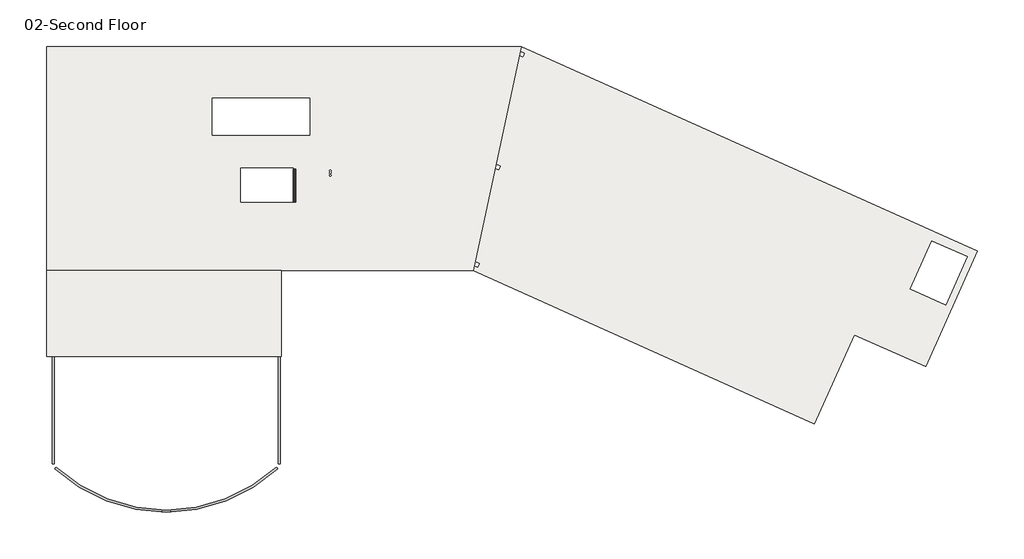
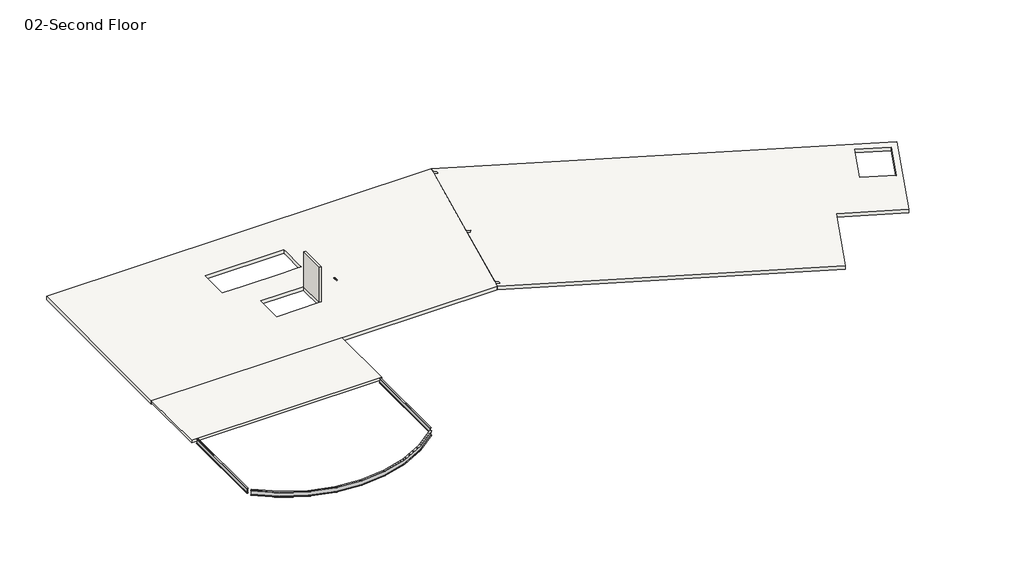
# One storey: 3 beams, 3 slabs, 1 wall.
"""IFC4 building model written with IfcOpenShell, lengths in millimetres."""

from ifc_helpers import new_model, si_unit, frame, origin, place, context, project, spatial, polyline, circle_curve, outline, extrude, faceted_brep, transform, mapped, element, save
from ifc_brep_helpers import plane_surface, revolved_surface, advanced_brep
from components import w_shapes_w16x26_e367a1e3, w_shapes_w16x26_bd6dae71, w_shapes_w16x26_8057c508

model = new_model("IFC4")

# Units and contexts
model_context = context("Model", 3, world=origin())
ifc_project = project(units=[si_unit("LENGTHUNIT", "METRE", prefix="MILLI")], contexts=[model_context])

# Site, building, storey
site = spatial("IfcSite", under=ifc_project)
building = spatial("IfcBuilding", under=site)
storey = spatial("IfcBuildingStorey", under=building, Name="02-Second Floor", Elevation=6705.6)

# Beams
placement = place(None, origin())
w_shapes_w16x26_shape = w_shapes_w16x26_e367a1e3(model_context)
element("IfcBeam", 1, ObjectType="W Shapes : W16X26", at=placement, inside=storey, context=model_context, shape_type="MappedRepresentation", body=[
    mapped(w_shapes_w16x26_shape, transform((14998.7, -23723.6, 6506.21), x_axis=(0.0, -1.0, 0.0), y_axis=(1.0, 0.0, 0.0), z_axis=(0.0, 0.0, 1.0))),
])
w_shapes_w16x26_2_shape = w_shapes_w16x26_bd6dae71(model_context)
element("IfcBeam", 2, ObjectType="W Shapes : W16X26", at=placement, inside=storey, context=model_context, shape_type="MappedRepresentation", body=[
    mapped(w_shapes_w16x26_2_shape, transform((0.0, -23723.6, 6506.21), x_axis=(0.0, 1.0, 0.0), y_axis=(-1.0, 0.0, 0.0), z_axis=(0.0, 0.0, 1.0))),
])
w_shapes_w16x26_3_shape = w_shapes_w16x26_8057c508(model_context)
element("IfcBeam", 3, ObjectType="W Shapes : W16X26", at=placement, inside=storey, context=model_context, shape_type="MappedRepresentation", body=[
    mapped(w_shapes_w16x26_3_shape, transform((14998.7, -27444.7, 6506.21), x_axis=(-0.7227923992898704, -0.691065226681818, 0.0), y_axis=(0.691065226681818, -0.7227923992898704, 0.0), z_axis=(0.0, 0.0, 1.0))),
])

# Slabs
element("IfcSlab", 4, ObjectType="RC Composite Slab 8\"", at=placement, inside=storey, context=model_context, shape_type="SweptSolid", body=[
    extrude(outline(polyline([(15151.1, -20154.9), (-457.2, -20154.9), (-457.2, -14452.6), (15151.1, -14452.6), (15151.1, -20154.9)])), frame((0.0, 0.0, 6502.4), z_axis=(0.0, 0.0, 1.0), x_axis=(1.0, 0.0, 0.0)), (0.0, 0.0, 1.0), 203.2),
])
element("IfcSlab", 5, ObjectType="RC Slab 12\"", at=placement, inside=storey, context=model_context, shape_type="AdvancedBrep", body=[
    advanced_brep(
    [(-457.2, 457.2, 6400.8), (31098.7387393, 457.2, 6400.8), (27903.7815965, -14452.6, 6400.8), (-457.2, -14452.6, 6400.8), (17030.7, -2984.5, 6400.8), (10553.7, -2984.5, 6400.8), (10553.7, -5422.9, 6400.8), (10858.5, -5422.9, 6400.8), (17030.7, -5422.9, 6400.8), (17030.7, -5118.1, 6400.8), (17030.7, -3289.3, 6400.8), (18347.8020543, -8109.4381113, 6400.8), (18449.4020543, -8109.4381113, 6400.8), (18347.8020543, -7957.0381113, 6400.8), (18449.4020543, -7957.0381113, 6400.8), (18347.8020543, -7804.6381113, 6400.8), (18449.4020543, -7804.6381113, 6400.8), (15951.2, -7633.3081651, 6400.8), (12446.0, -7633.3081651, 6400.8), (12446.0, -7683.5, 6400.8), (12446.0, -9893.3, 6400.8), (15951.2, -9893.3, 6400.8), (15951.2, -7683.5, 6400.8), (31098.7387393, 457.2, 6705.6), (-457.2, 457.2, 6705.6), (-457.2, -14452.6, 6705.6), (15151.1, -14452.6, 6705.6), (27903.7815965, -14452.6, 6705.6), (10553.7, -2984.5, 6705.6), (17030.7, -2984.5, 6705.6), (17030.7, -3289.3, 6705.6), (17030.7, -5118.1, 6705.6), (17030.7, -5422.9, 6705.6), (16522.7, -5422.9, 6705.6), (15608.3, -5422.9, 6705.6), (14389.1, -5422.9, 6705.6), (13474.7, -5422.9, 6705.6), (12242.8, -5422.9, 6705.6), (11328.4, -5422.9, 6705.6), (10553.7, -5422.9, 6705.6), (18449.4020543, -8109.4381113, 6705.6), (18347.8020543, -8109.4381113, 6705.6), (18449.4020543, -7957.0381113, 6705.6), (18347.8020543, -7957.0381113, 6705.6), (18449.4020543, -7804.6381113, 6705.6), (18347.8020543, -7804.6381113, 6705.6), (12446.0, -7633.3081651, 6705.6), (15951.2, -7633.3081651, 6705.6), (15951.2, -7683.5, 6705.6), (15951.2, -9893.3, 6705.6), (12446.0, -9893.3, 6705.6), (12446.0, -7683.5, 6705.6), (-457.2, -14452.6, 6502.4)],
    [
        (0, 1),
        (1, 2),
        (2, 3),
        (3, 0),
        (4, 5),
        (5, 6),
        (6, 7),
        (7, 8),
        (8, 9),
        (9, 10),
        (10, 4),
        (11, 12, circle_curve(frame((18398.6020543, -8109.4381113, 6400.8), z_axis=(0.0, 0.0, 1.0), x_axis=(1.0, 0.0, 0.0)), 50.8)),
        (12, 11, circle_curve(frame((18398.6020543, -8109.4381113, 6400.8), z_axis=(0.0, 0.0, 1.0), x_axis=(1.0, 0.0, 0.0)), 50.8)),
        (13, 14, circle_curve(frame((18398.6020543, -7957.0381113, 6400.8), z_axis=(0.0, 0.0, 1.0), x_axis=(1.0, 0.0, 0.0)), 50.8)),
        (14, 13, circle_curve(frame((18398.6020543, -7957.0381113, 6400.8), z_axis=(0.0, 0.0, 1.0), x_axis=(1.0, 0.0, 0.0)), 50.8)),
        (15, 16, circle_curve(frame((18398.6020543, -7804.6381113, 6400.8), z_axis=(0.0, 0.0, 1.0), x_axis=(1.0, 0.0, 0.0)), 50.8)),
        (16, 15, circle_curve(frame((18398.6020543, -7804.6381113, 6400.8), z_axis=(0.0, 0.0, 1.0), x_axis=(1.0, 0.0, 0.0)), 50.8)),
        (17, 18),
        (18, 19),
        (19, 20),
        (20, 21),
        (21, 22),
        (22, 17),
        (23, 24),
        (24, 25),
        (25, 26),
        (26, 27),
        (27, 23),
        (28, 29),
        (29, 30),
        (30, 31),
        (31, 32),
        (32, 33),
        (33, 34),
        (34, 35),
        (35, 36),
        (36, 37),
        (37, 38),
        (38, 39),
        (39, 28),
        (40, 41, circle_curve(frame((18398.6020543, -8109.4381113, 6705.6), z_axis=(0.0, 0.0, -1.0), x_axis=(1.0, 0.0, 0.0)), 50.8)),
        (41, 40, circle_curve(frame((18398.6020543, -8109.4381113, 6705.6), z_axis=(0.0, 0.0, -1.0), x_axis=(1.0, 0.0, 0.0)), 50.8)),
        (42, 43, circle_curve(frame((18398.6020543, -7957.0381113, 6705.6), z_axis=(0.0, 0.0, -1.0), x_axis=(1.0, 0.0, 0.0)), 50.8)),
        (43, 42, circle_curve(frame((18398.6020543, -7957.0381113, 6705.6), z_axis=(0.0, 0.0, -1.0), x_axis=(1.0, 0.0, 0.0)), 50.8)),
        (44, 45, circle_curve(frame((18398.6020543, -7804.6381113, 6705.6), z_axis=(0.0, 0.0, -1.0), x_axis=(1.0, 0.0, 0.0)), 50.8)),
        (45, 44, circle_curve(frame((18398.6020543, -7804.6381113, 6705.6), z_axis=(0.0, 0.0, -1.0), x_axis=(1.0, 0.0, 0.0)), 50.8)),
        (46, 47),
        (47, 48),
        (48, 49),
        (49, 50),
        (50, 51),
        (51, 46),
        (0, 24),
        (23, 1),
        (27, 2),
        (25, 52),
        (52, 3),
        (4, 29),
        (28, 5),
        (39, 6),
        (32, 8),
        (17, 47),
        (46, 18),
        (50, 20),
        (49, 21),
        (11, 41),
        (40, 12),
        (13, 43),
        (42, 14),
        (15, 45),
        (44, 16),
    ],
    [
        plane_surface(frame((0.0, 457.2, 6400.8), z_axis=(0.0, 0.0, -1.0), x_axis=(1.0, 0.0, 0.0))),
        plane_surface(frame((0.0, 457.2, 6705.6), z_axis=(0.0, 0.0, 1.0), x_axis=(-1.0, 0.0, 0.0))),
        plane_surface(frame((-457.2, 457.2, 6400.8), z_axis=(0.0, 1.0, 0.0), x_axis=(0.0, 0.0, 1.0))),
        plane_surface(frame((31098.7387393, 457.2, 6400.8), z_axis=(0.9778024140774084, -0.2095290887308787, 0.0), x_axis=(0.0, 0.0, 1.0))),
        plane_surface(frame((27903.7815965, -14452.6, 6400.8), z_axis=(0.0, -1.0, 0.0), x_axis=(0.0, 0.0, 1.0))),
        plane_surface(frame((-457.2, -14452.6, 6400.8), z_axis=(-1.0, 0.0, 0.0), x_axis=(0.0, 0.0, 1.0))),
        plane_surface(frame((17030.7, -2984.5, 10363.2), z_axis=(0.0, -1.0, 0.0), x_axis=(0.0, 0.0, -1.0))),
        plane_surface(frame((10553.7, -2984.5, 10363.2), z_axis=(1.0, 0.0, 0.0), x_axis=(0.0, 0.0, -1.0))),
        plane_surface(frame((10553.7, -5422.9, 10363.2), z_axis=(0.0, 1.0, 0.0), x_axis=(0.0, 0.0, -1.0))),
        plane_surface(frame((17030.7, -5422.9, 10363.2), z_axis=(-1.0, 0.0, 0.0), x_axis=(0.0, 0.0, -1.0))),
        plane_surface(frame((15951.2, -7633.3081651, 10363.2), z_axis=(0.0, -1.0, 0.0), x_axis=(0.0, 0.0, -1.0))),
        plane_surface(frame((12446.0, -7633.3081651, 10363.2), z_axis=(1.0, 0.0, 0.0), x_axis=(0.0, 0.0, -1.0))),
        plane_surface(frame((12446.0, -9893.3, 10363.2), z_axis=(0.0, 1.0, 0.0), x_axis=(0.0, 0.0, -1.0))),
        plane_surface(frame((15951.2, -9893.3, 10363.2), z_axis=(-1.0, 0.0, 0.0), x_axis=(0.0, 0.0, -1.0))),
        revolved_surface(polyline([(18449.4020543, -8109.4381113, 6705.6), (18449.4020543, -8109.4381113, 6400.8)]), (18398.6020543, -8109.4381113, 6096.0), (0.0, 0.0, 1.0)),
        revolved_surface(polyline([(18449.4020543, -7957.0381113, 6705.6), (18449.4020543, -7957.0381113, 6400.8)]), (18398.6020543, -7957.0381113, 6096.0), (0.0, 0.0, 1.0)),
        revolved_surface(polyline([(18449.4020543, -7804.6381113, 6705.6), (18449.4020543, -7804.6381113, 6400.8)]), (18398.6020543, -7804.6381113, 6096.0), (0.0, 0.0, 1.0)),
    ],
    [
        (0, [[1, 2, 3, 4], [5, 6, 7, 8, 9, 10, 11], [12, 13], [14, 15], [16, 17], [18, 19, 20, 21, 22, 23]]),
        (1, [[24, 25, 26, 27, 28], [29, 30, 31, 32, 33, 34, 35, 36, 37, 38, 39, 40], [41, 42], [43, 44], [45, 46], [47, 48, 49, 50, 51, 52]]),
        (2, [[-1, 53, -24, 54]]),
        (3, [[-2, -54, -28, 55]]),
        (4, [[-3, -55, -27, -26, 56, 57]]),
        (5, [[-4, -57, -56, -25, -53]]),
        (6, [[58, -29, 59, -5]]),
        (7, [[-59, -40, 60, -6]]),
        (8, [[-60, -39, -38, -37, -36, -35, -34, -33, 61, -8, -7]]),
        (9, [[-58, -11, -10, -9, -61, -32, -31, -30]]),
        (10, [[62, -47, 63, -18]]),
        (11, [[-63, -52, -51, 64, -20, -19]]),
        (12, [[-64, -50, 65, -21]]),
        (13, [[-62, -23, -22, -65, -49, -48]]),
        (14, [[66, -41, 67, -12]]),
        (14, [[-66, -13, -67, -42]]),
        (15, [[68, -43, 69, -14]]),
        (15, [[-68, -15, -69, -44]]),
        (16, [[70, -45, 71, -16]]),
        (16, [[-70, -17, -71, -46]]),
    ],
),
])
element("IfcSlab", 6, ObjectType="RC Slab 12\"", at=placement, inside=storey, context=model_context, shape_type="Brep", body=[
    faceted_brep([(61413.0546278, -13159.9258537, 6400.8), (57962.8673107, -20840.7, 6400.8), (53236.2370668, -18717.5078049, 6400.8), (50577.0429205, -24637.3804878, 6400.8), (27903.7815965, -14452.6, 6400.8), (27969.0988162, -14147.786308, 6400.8), (28217.3432689, -14259.3121951, 6400.8), (28342.2369275, -13981.275122, 6400.8), (28034.4045592, -13843.0124873, 6400.8), (29359.7488162, -7658.086308, 6400.8), (29607.9932689, -7769.6121951, 6400.8), (29732.8869275, -7491.575122, 6400.8), (29425.0545592, -7353.3124873, 6400.8), (30968.1131019, -152.386308, 6400.8), (31216.3575546, -263.9121951, 6400.8), (31341.2512132, 14.124878, 6400.8), (31033.4188449, 152.3875127, 6400.8), (31098.7387393, 457.2, 6400.8), (59309.9346278, -16726.0858537, 6400.8), (60746.211701, -13528.6595122, 6400.8), (58382.896579, -12467.0634146, 6400.8), (56946.6195059, -15664.4897561, 6400.8), (57962.8673107, -20840.7, 6705.6), (61413.0546278, -13159.9258537, 6705.6), (31098.7387393, 457.2, 6705.6), (31033.4244536, 152.4, 6705.6), (31341.2512132, 14.124878, 6705.6), (31216.3575546, -263.9121951, 6705.6), (30968.1131019, -152.386308, 6705.6), (29425.0601679, -7353.3, 6705.6), (29732.8869275, -7491.575122, 6705.6), (29607.9932689, -7769.6121951, 6705.6), (29359.7488162, -7658.086308, 6705.6), (28034.4101679, -13843.0, 6705.6), (28342.2369275, -13981.275122, 6705.6), (28217.3432689, -14259.3121951, 6705.6), (27969.0988162, -14147.786308, 6705.6), (27903.7815965, -14452.6, 6705.6), (50577.0429205, -24637.3804878, 6705.6), (53236.2370668, -18717.5078049, 6705.6), (60746.211701, -13528.6595122, 6705.6), (59309.9346278, -16726.0858537, 6705.6), (56946.6195059, -15664.4897561, 6705.6), (58382.896579, -12467.0634146, 6705.6)], [[[0, 1, 2, 3, 4, 5, 6, 7, 8, 9, 10, 11, 12, 13, 14, 15, 16, 17], [18, 19, 20, 21]], [[22, 23, 24, 25, 26, 27, 28, 29, 30, 31, 32, 33, 34, 35, 36, 37, 38, 39], [40, 41, 42, 43]], [[1, 0, 23, 22]], [[2, 1, 22, 39]], [[3, 2, 39, 38]], [[4, 3, 38, 37]], [[4, 37, 36, 5]], [[24, 17, 16, 25]], [[8, 33, 32, 9]], [[28, 13, 12, 29]], [[0, 17, 24, 23]], [[7, 34, 33, 8]], [[34, 7, 6, 35]], [[35, 6, 5, 36]], [[15, 26, 25, 16]], [[26, 15, 14, 27]], [[27, 14, 13, 28]], [[11, 30, 29, 12]], [[30, 11, 10, 31]], [[31, 10, 9, 32]], [[18, 41, 40, 19]], [[19, 40, 43, 20]], [[20, 43, 42, 21]], [[41, 18, 21, 42]]]),
])

# Wall
element("IfcWall", 7, ObjectType="6\" Blockwork with render", at=placement, inside=storey, context=model_context, shape_type="SweptSolid", body=[
    extrude(outline(polyline([(16103.6, -7683.5), (16103.6, -9893.3), (15951.2, -9893.3), (15951.2, -7683.5), (16103.6, -7683.5)])), frame((0.0, 0.0, 6705.6), z_axis=(0.0, 0.0, 1.0), x_axis=(1.0, 0.0, 0.0)), (0.0, 0.0, 1.0), 3048.0),
])

save(model, "model.ifc")
